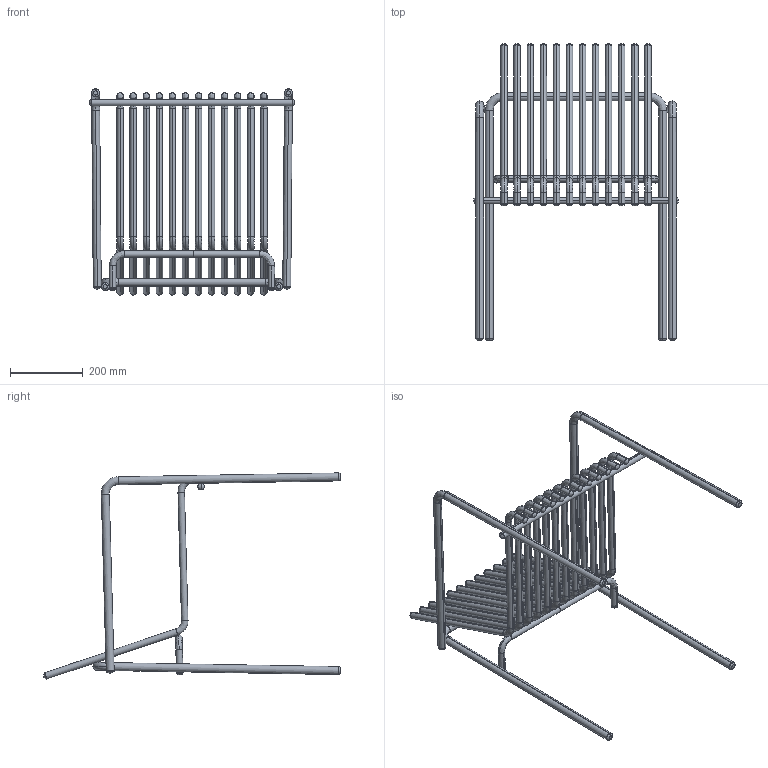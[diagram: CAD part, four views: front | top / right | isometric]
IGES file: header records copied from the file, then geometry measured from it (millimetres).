
Start section: 3D InterOp IGES (v. 2021 1.0.1), Spatial Corp. Copyright (c) 1999-2020.
Global section: file name: 20211108_Sedia AMALFI_Braccioli.igs; native system: Spatial Corp.; preprocessor: 3D InterOp GENERIC/IGES 3.0; author: Noname; organization: Noname; date: 20220316.134221; units: millimetre
Bounding box: 566 x 818.29 x 568.16 mm (x, y, z)
Surface area: 1749109.7 mm2 (no closed solid volume)
Topology: 0 solids, 0 shells, 572 faces, 2228 edges, 2212 vertices
Faces by surface type: revolution 500, extrusion 72
